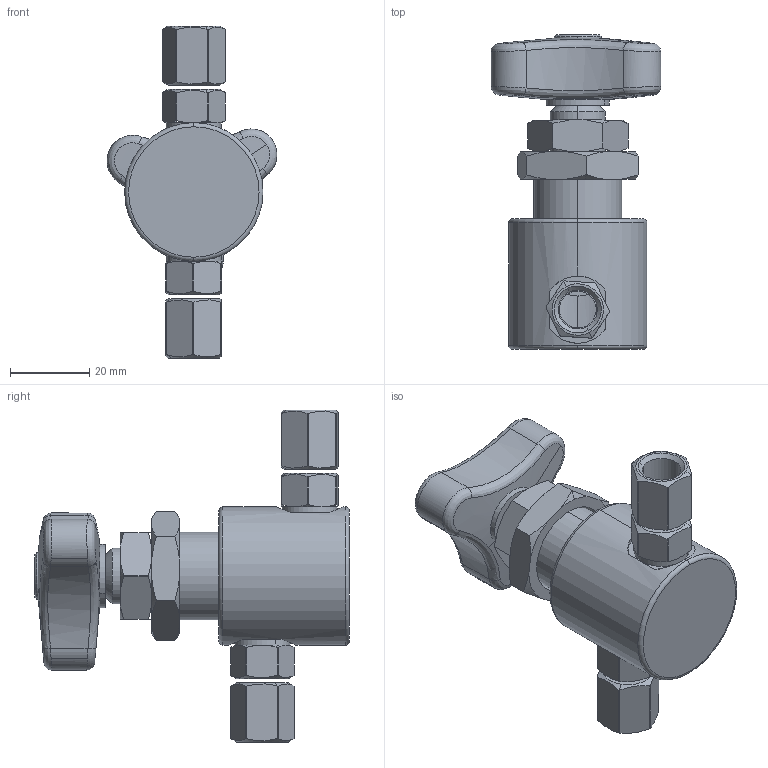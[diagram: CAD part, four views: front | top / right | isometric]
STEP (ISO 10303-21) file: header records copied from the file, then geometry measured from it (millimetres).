
FILE_DESCRIPTION (( 'STEP AP214' ), '1' );
FILE_NAME ('VRV18002.STEP', '2025-06-03T23:27:41', ( '' ), ( '' ), 'SwSTEP 2.0', 'SolidWorks 2023', '' );
FILE_SCHEMA (( 'AUTOMOTIVE_DESIGN' ));
Length unit declared in the file: millimetre
Products named in the file (1): VRV18002
Bounding box: 42.96 x 79.62 x 84 mm (x, y, z)
Surface area: 16867.2 mm2 (no closed solid volume)
Topology: 0 solids, 10 shells, 190 faces, 537 edges, 354 vertices
Faces by surface type: cone 59, cylinder 58, plane 57, bspline 12, torus 4
Entity records: 8211 total; most frequent: CARTESIAN_POINT 3490, ORIENTED_EDGE 967, DIRECTION 957, EDGE_CURVE 537, AXIS2_PLACEMENT_3D 389, VERTEX_POINT 354, CIRCLE 210, EDGE_LOOP 204
